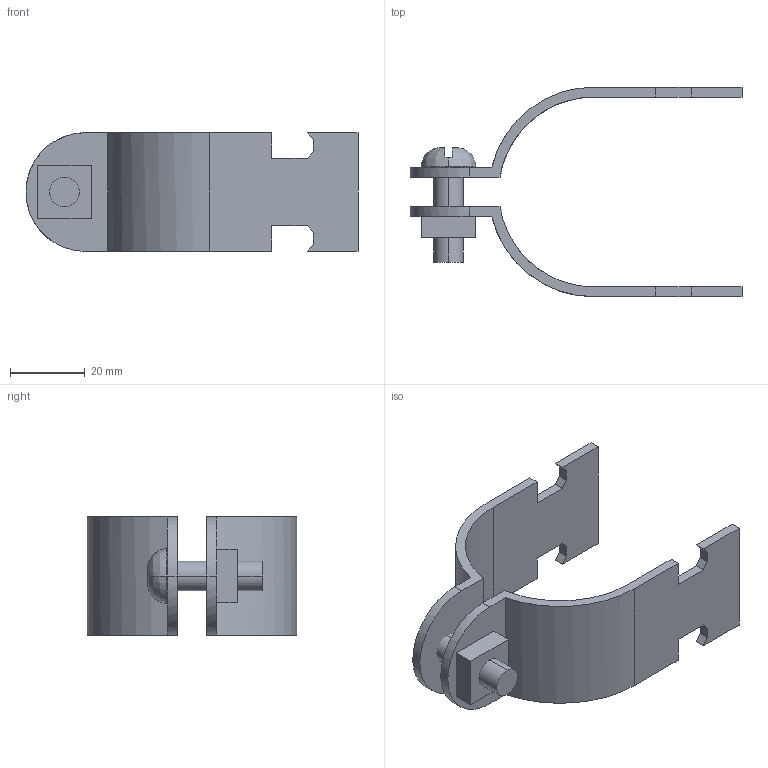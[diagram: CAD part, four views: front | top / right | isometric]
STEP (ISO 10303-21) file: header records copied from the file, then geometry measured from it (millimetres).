
FILE_DESCRIPTION(('TurboCAD Mac Pro'),'Build 980');
FILE_NAME('P2038.stp',' ',(''),(''),'ACIS Interop','IMSI','TurboCAD Mac Pro BY IMSI, INCORPORATED');
FILE_SCHEMA(('automotive_design'));
Length unit declared in the file: inch
Products named in the file (6): 1; 2; 3; 4; 5; 6
Bounding box: 88.9 x 56.09 x 31.74 mm (x, y, z)
Volume: 18156.5 mm3; surface area: 15084.5 mm2
Topology: 5 solids, 5 shells, 76 faces, 194 edges, 128 vertices
Faces by surface type: plane 52, bspline 24
Entity records: 3672 total; most frequent: CARTESIAN_POINT 1140, ORIENTED_EDGE 388, DIRECTION 266, EDGE_CURVE 194, LINE 142, VECTOR 142, VERTEX_POINT 128, STYLED_ITEM 93
